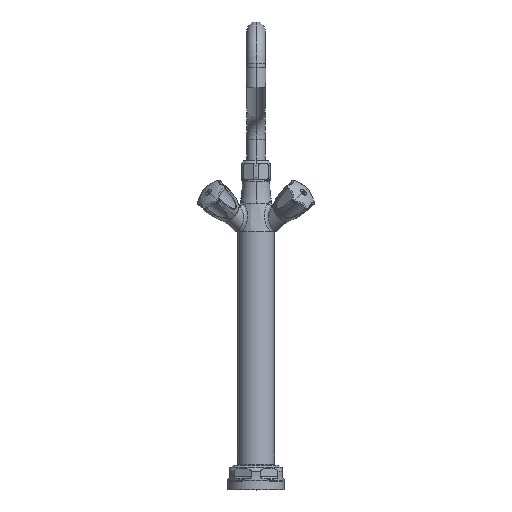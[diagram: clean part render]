
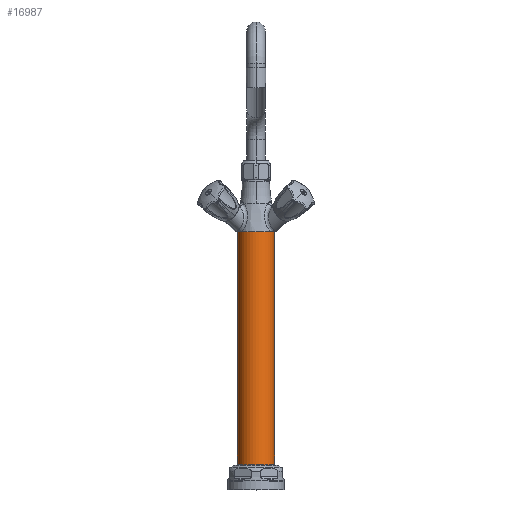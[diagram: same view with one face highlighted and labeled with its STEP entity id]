
A CAD part, top view. The second image highlights one B-rep face of the part: STEP entity #16987.
In plain terms, the highlighted cylindrical face has radius 26 mm (diameter 52 mm), a partial arc.
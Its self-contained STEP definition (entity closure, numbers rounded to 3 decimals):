
#5535=CARTESIAN_POINT('',(0.,15.,0.));
#5536=DIRECTION('',(0.,1.,0.));
#5537=DIRECTION('',(-1.,0.,0.));
#5538=AXIS2_PLACEMENT_3D('',#5535,#5536,#5537);
#5540=DIRECTION('',(0.,1.,0.));
#5541=VECTOR('',#5540,327.5);
#5542=CARTESIAN_POINT('',(26.,-312.5,0.));
#5543=LINE('',#5542,#5541);
#5544=CARTESIAN_POINT('',(0.,-312.5,0.));
#5545=DIRECTION('',(0.,1.,0.));
#5546=DIRECTION('',(-1.,0.,0.));
#5547=AXIS2_PLACEMENT_3D('',#5544,#5545,#5546);
#5549=DIRECTION('',(0.,1.,0.));
#5550=VECTOR('',#5549,327.5);
#5551=CARTESIAN_POINT('',(-26.,-312.5,0.));
#5552=LINE('',#5551,#5550);
#6999=CARTESIAN_POINT('',(26.,-312.5,0.));
#7000=CARTESIAN_POINT('',(-26.,-312.5,0.));
#7001=VERTEX_POINT('',#6999);
#7002=VERTEX_POINT('',#7000);
#7224=CARTESIAN_POINT('',(26.,15.,0.));
#7225=CARTESIAN_POINT('',(-26.,15.,0.));
#7226=VERTEX_POINT('',#7224);
#7227=VERTEX_POINT('',#7225);
#16975=CARTESIAN_POINT('',(0.,-332.55,0.));
#16976=DIRECTION('',(0.,1.,0.));
#16977=DIRECTION('',(1.,0.,0.));
#16978=AXIS2_PLACEMENT_3D('',#16975,#16976,#16977);
#16979=CYLINDRICAL_SURFACE('',#16978,26.);
#16980=ORIENTED_EDGE('',*,*,#10992,.T.);
#16981=ORIENTED_EDGE('',*,*,#16963,.F.);
#16983=ORIENTED_EDGE('',*,*,#16982,.F.);
#16984=ORIENTED_EDGE('',*,*,#16959,.T.);
#16985=EDGE_LOOP('',(#16980,#16981,#16983,#16984));
#16986=FACE_OUTER_BOUND('',#16985,.F.);
#5539=CIRCLE('',#5538,26.);
#5548=CIRCLE('',#5547,26.);
#10992=EDGE_CURVE('',#7227,#7226,#5539,.T.);
#16959=EDGE_CURVE('',#7002,#7227,#5552,.T.);
#16963=EDGE_CURVE('',#7001,#7226,#5543,.T.);
#16982=EDGE_CURVE('',#7002,#7001,#5548,.T.);
#16987=ADVANCED_FACE('',(#16986),#16979,.T.);
